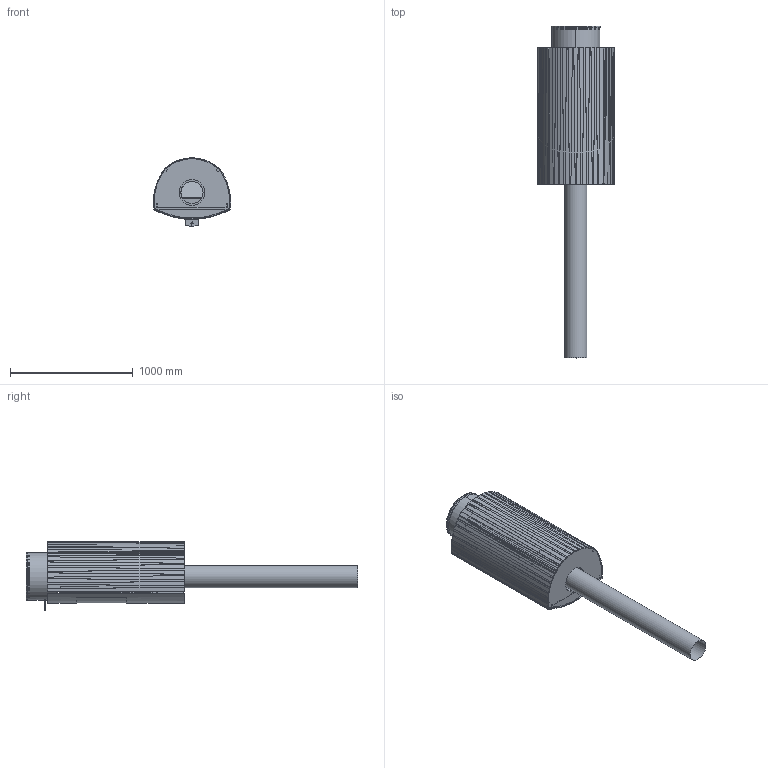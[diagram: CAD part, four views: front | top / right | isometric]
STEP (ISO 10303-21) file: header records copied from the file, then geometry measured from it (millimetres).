
FILE_DESCRIPTION (( 'STEP AP214' ), '1' );
FILE_NAME ('Leenders Hymme.STEP', '2022-05-03T09:09:47', ( '' ), ( '' ), 'SwSTEP 2.0', 'SolidWorks 2022', '' );
FILE_SCHEMA (( 'AUTOMOTIVE_DESIGN' ));
Length unit declared in the file: millimetre
Products named in the file (1): Leenders Hymme
Bounding box: 627.92 x 2701.5 x 553.49 mm (x, y, z)
Volume: 38565842.3 mm3; surface area: 14743239 mm2
Topology: 57 solids, 59 shells, 2408 faces, 5947 edges, 3651 vertices
Faces by surface type: plane 1397, cylinder 657, bspline 326, torus 14, sphere 14
Full cylindrical faces by diameter (mm): 7 x2, 150.5 x1, 178 x1, 180 x3, 210 x1, 320 x1, 387 x1, 389 x2, 391 x1, 393 x1
Entity records: 107687 total; most frequent: CARTESIAN_POINT 26894, ORIENTED_EDGE 11828, DIRECTION 10272, EDGE_CURVE 5914, VECTOR 3966, LINE 3966, VERTEX_POINT 3651, AXIS2_PLACEMENT_3D 3153
